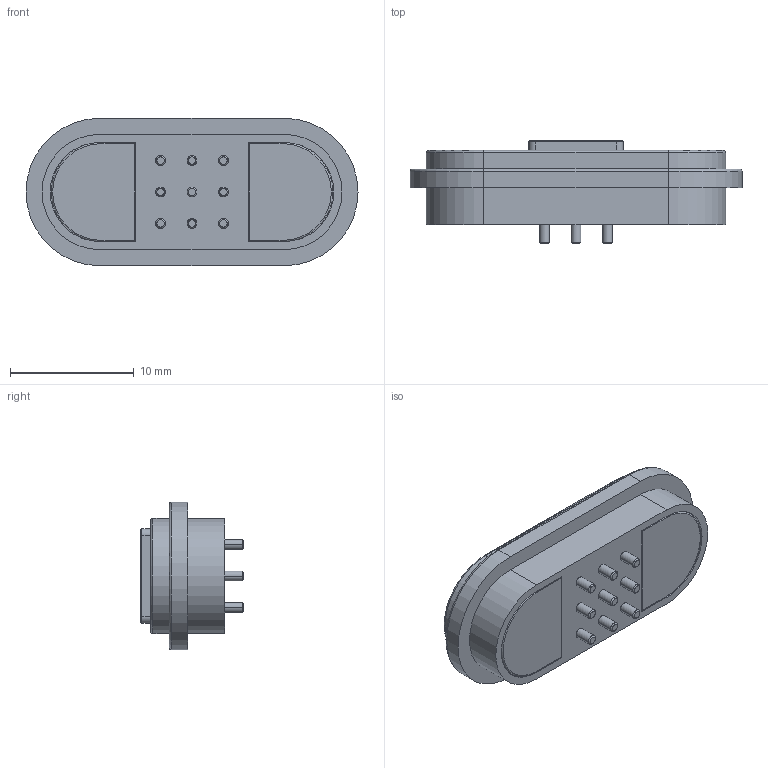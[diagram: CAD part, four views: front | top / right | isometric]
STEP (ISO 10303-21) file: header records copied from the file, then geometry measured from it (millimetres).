
FILE_DESCRIPTION((''),'2;1');
FILE_NAME('FEMALE_ASM','2022-01-20T',('lenovo'),(''),'PRO/ENGINEER BY PARAMETRIC TECHNOLOGY CORPORATION, 2008380','PRO/ENGINEER BY PARAMETRIC TECHNOLOGY CORPORATION, 2008380','');
FILE_SCHEMA(('CONFIG_CONTROL_DESIGN'));
Length unit declared in the file: millimetre
Products named in the file (4): FHOUSING; PIN; CITIE; FEMALE_ASM
Assembly tree (12 placements, depth 2):
  FEMALE_ASM
    FHOUSING
    PIN  x9
    CITIE  x2
Bounding box: 26.8 x 8.3 x 11.9 mm (x, y, z)
Volume: 1404.5 mm3; surface area: 2107.3 mm2
Topology: 12 solids, 12 shells, 217 faces, 444 edges, 274 vertices
Faces by surface type: cylinder 110, plane 69, cone 18, torus 12, sphere 8
Entity records: 3706 total; most frequent: DIRECTION 710, CARTESIAN_POINT 593, ORIENTED_EDGE 556, AXIS2_PLACEMENT_3D 291, EDGE_CURVE 278, VERTEX_POINT 174, EDGE_LOOP 158, CIRCLE 150
